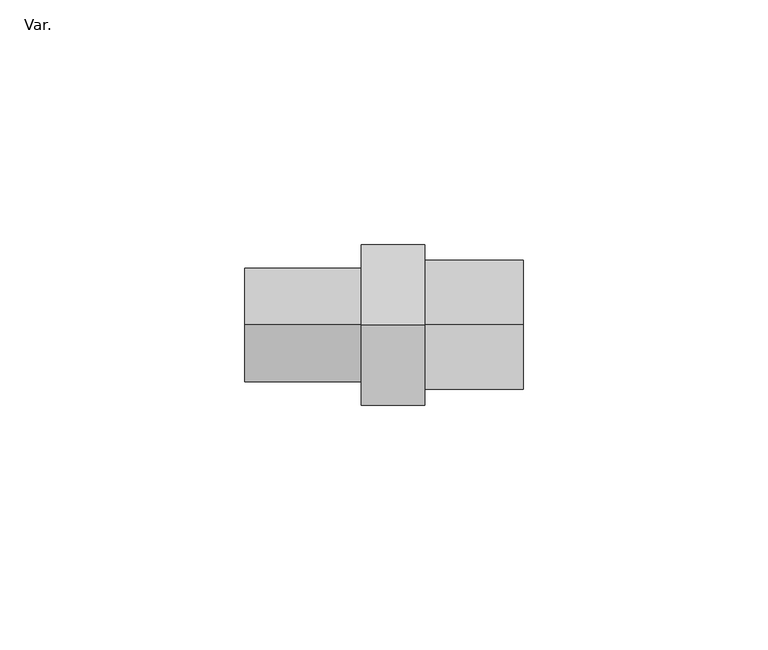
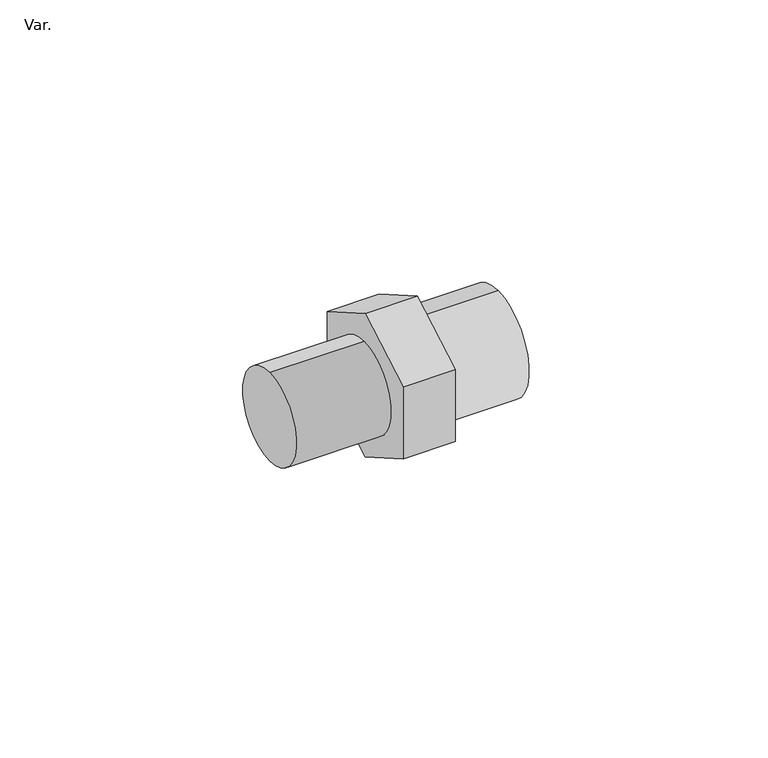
"""IFC4 building model written with IfcOpenShell, lengths in millimetres: pipe fitting geometry, Wavin Tigris K1 Manifold Male to Male Thread : Var.."""

from ifc_helpers import new_model, si_unit, point, frame, origin, origin_2d, place, context, project, spatial, polyline, circle_curve, trimmed, segment, composite_curve, outline, extrude, source, transform, mapped, element, save


def var_dd9a576a(model_context):
    return source(origin(), model_context, "Body", "SweptSolid", [
        extrude(outline(composite_curve([segment(trimmed(circle_curve(origin_2d(), 13.25), [point((0.0, 13.25))], [point((0.0, -13.25))], False, "CARTESIAN"), True, "CONTINUOUS"), segment(trimmed(circle_curve(origin_2d(), 13.25), [point((0.0, -13.25))], [point((0.0, 13.25))], False, "CARTESIAN"), True, "CONTINUOUS")], self_intersect=False)), frame((-20.2, 0.0, 0.0), z_axis=(1.0, 0.0, 0.0), x_axis=(0.0, 1.0, 0.0)), (0.0, 0.0, 1.0), 20.2),
        extrude(outline(polyline([(16.4, -9.4685444), (0.0, -18.9370888), (-16.4, -9.4685444), (-16.4, 9.4685444), (0.0, 18.9370888), (16.4, 9.4685444), (16.4, -9.4685444)])), frame((-33.2, 0.0, 0.0), z_axis=(1.0, 0.0, 0.0), x_axis=(0.0, 1.0, 0.0)), (0.0, 0.0, 1.0), 13.0),
        extrude(outline(composite_curve([segment(trimmed(circle_curve(origin_2d(), 11.6), [point((0.0, -11.6))], [point((0.0, 11.6))], False, "CARTESIAN"), True, "CONTINUOUS"), segment(trimmed(circle_curve(origin_2d(), 11.6), [point((0.0, 11.6))], [point((0.0, -11.6))], False, "CARTESIAN"), True, "CONTINUOUS")], self_intersect=False)), frame((-57.0, 0.0, 0.0), z_axis=(1.0, 0.0, 0.0), x_axis=(0.0, 1.0, 0.0)), (0.0, 0.0, 1.0), 23.8),
    ])


if __name__ == "__main__":
    model = new_model("IFC4")
    model_context = context("Model", 3, world=origin())
    ifc_project = project(units=[si_unit("LENGTHUNIT", "METRE", prefix="MILLI")], contexts=[model_context])
    site = spatial("IfcSite", under=ifc_project)
    building = spatial("IfcBuilding", under=site)
    placement = place(None, origin())
    var_shape = var_dd9a576a(model_context)
    element("IfcPipeFitting", 1, ObjectType="Wavin Tigris K1 Manifold Male to Male Thread : Var.", at=placement, inside=building, context=model_context, shape_type="MappedRepresentation", body=[
        mapped(var_shape, transform((0.0, 0.0, 0.0), x_axis=(1.0, 0.0, 0.0), y_axis=(0.0, 1.0, 0.0), z_axis=(0.0, 0.0, 1.0))),
    ])
    save(model, "model.ifc")
